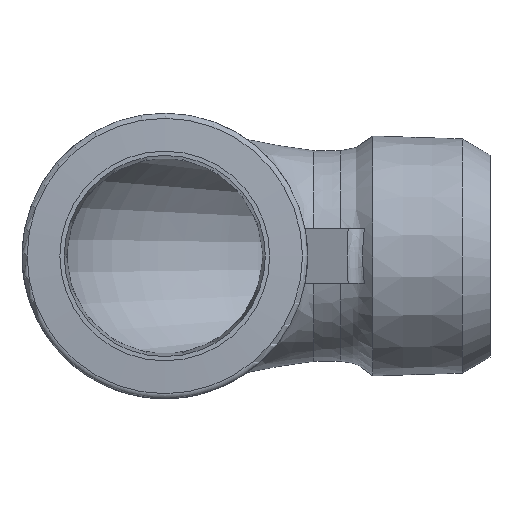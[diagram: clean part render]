
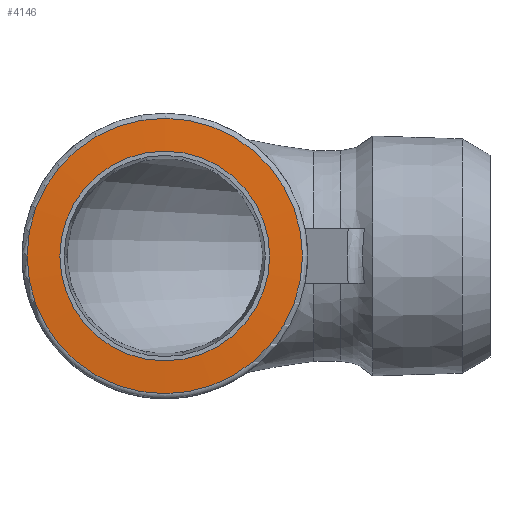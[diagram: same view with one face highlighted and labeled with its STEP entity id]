
A CAD part, front view. The second image highlights one B-rep face of the part: STEP entity #4146.
In plain terms, the highlighted conical face has half-angle 87 degrees and reference radius 22.85 mm.
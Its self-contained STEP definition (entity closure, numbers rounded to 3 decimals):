
#4119=CARTESIAN_POINT('',(0.0,0.183,0.0));
#4120=DIRECTION('',(0.0,1.0,0.0));
#4121=DIRECTION('',(-1.0,0.0,0.0));
#4122=AXIS2_PLACEMENT_3D('',#4119,#4120,#4121);
#4123=CONICAL_SURFACE('',#4122,22.85,87.);
#4124=CARTESIAN_POINT('',(19.35,0.0,0.));
#4125=VERTEX_POINT('',#4124);
#4126=CARTESIAN_POINT('',(0.0,0.0,0.0));
#4127=DIRECTION('',(0.0,1.0,0.0));
#4128=DIRECTION('',(-1.0,0.0,0.0));
#4129=AXIS2_PLACEMENT_3D('',#4126,#4127,#4128);
#4130=CIRCLE('',#4129,19.35);
#4131=EDGE_CURVE('',#4125,#4125,#4130,.T.);
#4132=ORIENTED_EDGE('',*,*,#4131,.T.);
#4133=EDGE_LOOP('',(#4132));
#4134=FACE_OUTER_BOUND('',#4133,.T.);
#4135=CARTESIAN_POINT('',(25.402,0.317,0.));
#4136=VERTEX_POINT('',#4135);
#4137=CARTESIAN_POINT('',(0.0,0.317,0.));
#4138=DIRECTION('',(0.0,1.0,0.0));
#4139=DIRECTION('',(-1.0,0.0,0.0));
#4140=AXIS2_PLACEMENT_3D('',#4137,#4138,#4139);
#4141=CIRCLE('',#4140,25.402);
#4142=EDGE_CURVE('',#4136,#4136,#4141,.T.);
#4143=ORIENTED_EDGE('',*,*,#4142,.F.);
#4144=EDGE_LOOP('',(#4143));
#4145=FACE_BOUND('',#4144,.T.);
#4146=ADVANCED_FACE('',(#4134,#4145),#4123,.T.);
